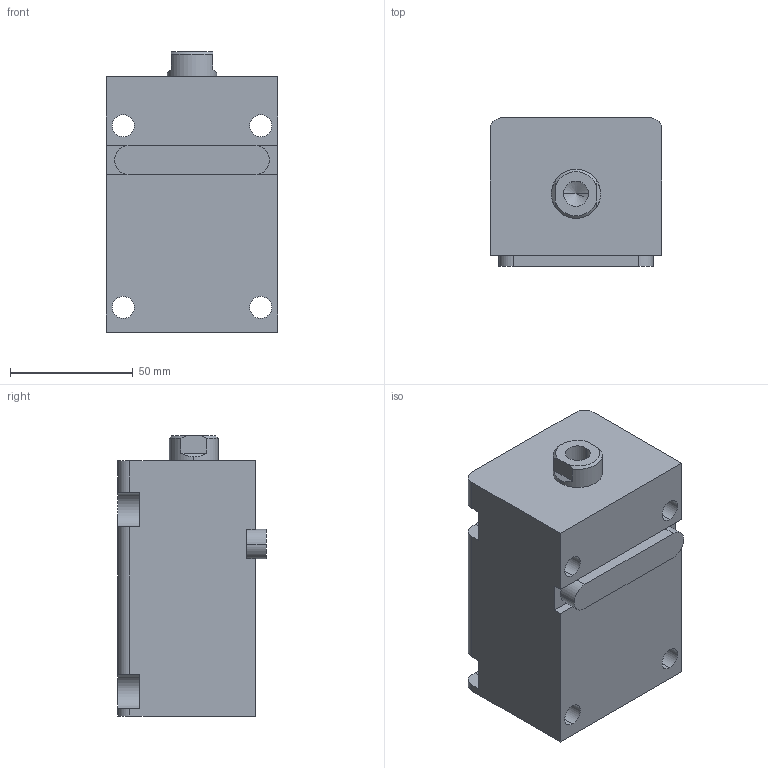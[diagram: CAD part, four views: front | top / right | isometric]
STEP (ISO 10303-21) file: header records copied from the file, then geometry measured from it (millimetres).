
FILE_DESCRIPTION (( 'STEP AP203' ), '1' );
FILE_NAME ('HTB-LA32-50N.STEP', '2019-10-09T06:28:29', ( '微软用户' ), ( '微软中国' ), 'SwSTEP 2.0', 'SolidWorks 2012', '' );
FILE_SCHEMA (( 'CONFIG_CONTROL_DESIGN' ));
Length unit declared in the file: millimetre
Products named in the file (4): HTB-LA32-50掛极; HTB-LA32-50N活塞杆; HTB-LA32-瑩; HTB-LA32-50N
Assembly tree (3 placements, depth 2):
  HTB-LA32-50N
    HTB-LA32-50掛极
    HTB-LA32-50N活塞杆
    HTB-LA32-瑩
Bounding box: 70 x 60.5 x 114 mm (x, y, z)
Volume: 366606.7 mm3; surface area: 61553.2 mm2
Topology: 3 solids, 3 shells, 88 faces, 217 edges, 141 vertices
Faces by surface type: plane 39, cylinder 35, cone 8, torus 6
Entity records: 3053 total; most frequent: DIRECTION 487, CARTESIAN_POINT 478, ORIENTED_EDGE 430, EDGE_CURVE 215, AXIS2_PLACEMENT_3D 186, VERTEX_POINT 141, LINE 115, VECTOR 115
